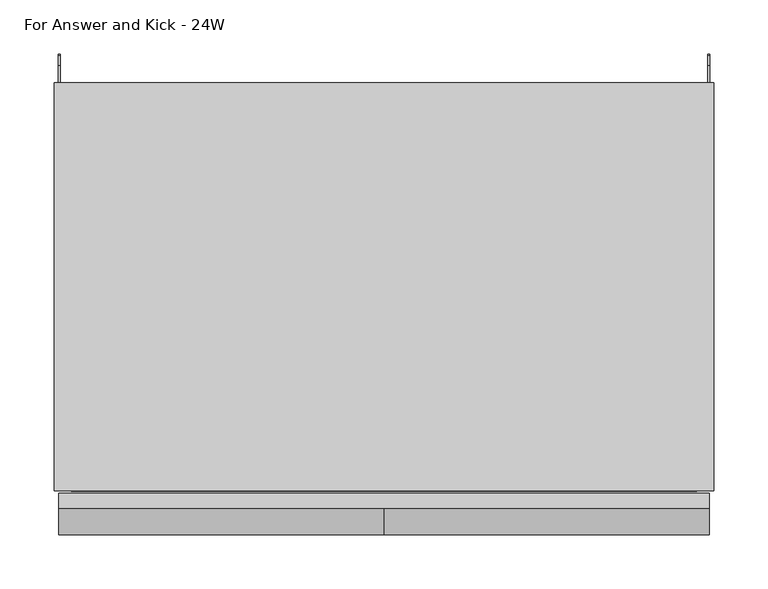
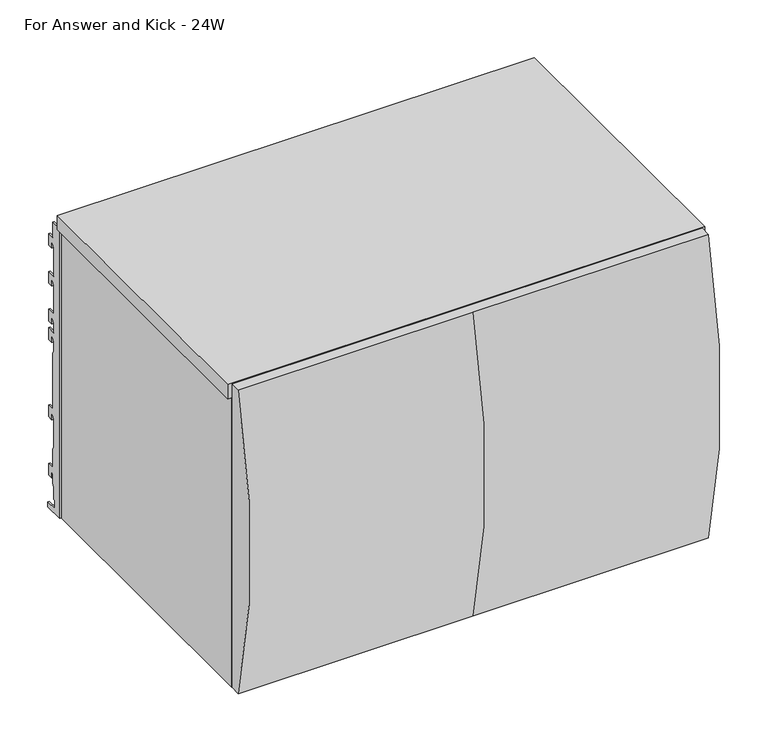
"""IFC4 building model written with IfcOpenShell, lengths in millimetres: furniture geometry, Steelcase - Universal Storage - Over the Case Bin - Radius Front : For Answer and Kick - 24W."""

from ifc_helpers import new_model, si_unit, frame, origin, place, context, project, spatial, polyline, circle_curve, outline, extrude, source, transform, mapped, element, save
from ifc_brep_helpers import plane_surface, cylinder_surface, advanced_brep


def for_answer_and_kick_24w_d9409938(model_context):
    return source(origin(), model_context, "Body", "SolidModel", [
        extrude(outline(polyline([(0.0, 1657.096), (15.428165, 1657.096), (15.428165, 1635.9725192), (24.6737648, 1635.9725192), (24.6737648, 1620.2499324), (17.7141651, 1620.2499324), (17.7141651, 1627.4034202), (15.428165, 1627.4034202), (13.3707653, 1623.8398995), (13.3707653, 1584.7332049), (24.4959651, 1584.7332049), (24.4959651, 1569.0106181), (17.7141651, 1569.0106181), (17.7141651, 1576.1734076), (15.428165, 1576.1734076), (13.3707653, 1572.6099624), (13.3707653, 1533.4938907), (24.6737648, 1533.4938907), (24.6737648, 1517.7713038), (17.5768, 1517.7713038), (17.5768, 1524.9340934), (15.4248855, 1524.9340934), (13.3349998, 1521.3219111), (13.3349998, 1508.4166423), (24.6737648, 1508.4166423), (24.6737648, 1492.6940555), (17.5768, 1492.6940555), (17.5768, 1499.856845), (15.4205129, 1499.856845), (13.3933344, 1496.3530466), (13.3933344, 1483.6530466), (15.428165, 1479.2893385), (15.428165, 1403.8551467), (24.6737648, 1403.8551467), (24.6737648, 1388.1325599), (17.7141651, 1388.1325599), (17.7141651, 1395.2982562), (15.428165, 1395.2982562), (13.3306079, 1391.6651808), (13.3306079, 1353.5651808), (15.428165, 1349.9321054), (15.428165, 1325.1000701), (24.6737648, 1325.1000701), (24.6737648, 1309.3774833), (17.7141651, 1309.3774833), (17.7141651, 1316.5328605), (15.428165, 1316.5328605), (15.428165, 1303.5355433), (13.2046809, 1299.684356), (13.2046809, 1282.9679719), (11.2879653, 1282.9679719), (11.2879653, 1271.9303504), (26.4009645, 1271.9303504), (26.4009645, 1265.428), (0.0, 1265.428), (0.0, 1657.096)])), frame((604.0882, 0.0, 0.0), z_axis=(1.0, 0.0, 0.0), x_axis=(0.0, 1.0, 0.0)), (0.0, 0.0, 1.0), 1.905),
        extrude(outline(polyline([(0.0, 1657.096), (15.428165, 1657.096), (15.428165, 1635.9725192), (24.6737648, 1635.9725192), (24.6737648, 1620.2499324), (17.7141651, 1620.2499324), (17.7141651, 1627.4034202), (15.428165, 1627.4034202), (13.3707653, 1623.8398995), (13.3707653, 1584.7332049), (24.4959651, 1584.7332049), (24.4959651, 1569.0106181), (17.7141651, 1569.0106181), (17.7141651, 1576.1734076), (15.428165, 1576.1734076), (13.3707653, 1572.6099624), (13.3707653, 1533.4938907), (24.6737648, 1533.4938907), (24.6737648, 1517.7713038), (17.5768, 1517.7713038), (17.5768, 1524.9340934), (15.4248855, 1524.9340934), (13.3349998, 1521.3219111), (13.3349998, 1508.4166423), (24.6737648, 1508.4166423), (24.6737648, 1492.6940555), (17.5768, 1492.6940555), (17.5768, 1499.856845), (15.4205129, 1499.856845), (13.3933344, 1496.3530466), (13.3933344, 1483.6530466), (15.428165, 1479.2893385), (15.428165, 1403.8551467), (24.6737648, 1403.8551467), (24.6737648, 1388.1325599), (17.7141651, 1388.1325599), (17.7141651, 1395.2982562), (15.428165, 1395.2982562), (13.3306079, 1391.6651808), (13.3306079, 1353.5651808), (15.428165, 1349.9321054), (15.428165, 1325.1000701), (24.6737648, 1325.1000701), (24.6737648, 1309.3774833), (17.7141651, 1309.3774833), (17.7141651, 1316.5328605), (15.428165, 1316.5328605), (15.428165, 1303.5355433), (13.2046809, 1299.684356), (13.2046809, 1282.9679719), (11.2879653, 1282.9679719), (11.2879653, 1271.9303504), (26.4009645, 1271.9303504), (26.4009645, 1265.428), (0.0, 1265.428), (0.0, 1657.096)])), frame((3.6068, 0.0, 0.0), z_axis=(1.0, 0.0, 0.0), x_axis=(0.0, 1.0, 0.0)), (0.0, 0.0, 1.0), 1.905),
        advanced_brep(
        [(605.1703, -393.0769518, 1677.2612846), (605.1703, -393.0769518, 1266.8226746), (605.1703, -379.476, 1266.8226746), (605.1703, -379.476, 1677.2612846), (304.8, -393.0769518, 1677.2612846), (304.8, -393.0769518, 1266.8226746), (4.4448587, -393.0769518, 1266.8226746), (4.4448587, -379.476, 1266.8226746), (4.4448587, -379.476, 1677.2612846), (4.4448587, -393.0769518, 1677.2612846)],
        [
            (0, 1, circle_curve(frame((605.1703, 352.6331971, 1472.0419796), z_axis=(1.0, 0.0, 0.0), x_axis=(0.0, 1.0, 0.0)), 773.4329895)),
            (1, 2),
            (2, 3),
            (3, 0),
            (0, 4),
            (4, 5, circle_curve(frame((304.8, 352.6331971, 1472.0419796), z_axis=(1.0, 0.0, 0.0), x_axis=(0.0, 1.0, 0.0)), 773.4329895)),
            (5, 1),
            (5, 6),
            (6, 7),
            (7, 2),
            (7, 8),
            (8, 3),
            (8, 9),
            (9, 4),
            (6, 9, circle_curve(frame((4.4448587, 352.6331971, 1472.0419796), z_axis=(-1.0, 0.0, 0.0), x_axis=(0.0, 1.0, 0.0)), 773.4329895)),
        ],
        [
            plane_surface(frame((605.1703, 1126.0661866, 1472.0419796), z_axis=(1.0, 0.0, 0.0), x_axis=(0.0, 0.0, 1.0))),
            cylinder_surface(frame((304.8, 352.6331971, 1472.0419796), z_axis=(1.0, 0.0, 0.0), x_axis=(0.0, 1.0, 0.0)), 773.4329895),
            plane_surface(frame((605.1703, -393.0769518, 1266.8226746), z_axis=(0.0, 0.0, -1.0), x_axis=(-1.0, 0.0, 0.0))),
            plane_surface(frame((605.1703, -379.476, 1266.8226746), z_axis=(0.0, 1.0, 0.0), x_axis=(-1.0, 0.0, 0.0))),
            plane_surface(frame((605.1703, -379.476, 1677.2612846), z_axis=(0.0, 0.0, 1.0), x_axis=(-1.0, 0.0, 0.0))),
            plane_surface(frame((4.4448587, 1126.0661866, 1472.0419796), z_axis=(-1.0, 0.0, 0.0), x_axis=(0.0, 0.0, -1.0))),
            cylinder_surface(frame((4.4448587, 352.6331971, 1472.0419796), z_axis=(1.0, 0.0, 0.0), x_axis=(0.0, 1.0, 0.0)), 773.4329895),
        ],
        [
            (0, [[1, 2, 3, 4]]),
            (1, [[-1, 5, 6, 7]]),
            (2, [[-2, -7, 8, 9, 10]]),
            (3, [[-3, -10, 11, 12]]),
            (4, [[-4, -12, 13, 14, -5]]),
            (5, [[-13, -11, -9, 15]]),
            (6, [[-15, -8, -6, -14]]),
        ],
    ),
        extrude(outline(polyline([(609.6, -377.213238), (0.0, -377.213238), (0.0, 0.0), (609.6, 0.0), (609.6, -377.213238)])), frame((0.0, 0.0, 1657.35), z_axis=(0.0, 0.0, 1.0), x_axis=(1.0, 0.0, 0.0)), (0.0, 0.0, 1.0), 19.05),
        extrude(outline(polyline([(15.875, -377.213238), (5.5118, -377.213238), (5.5118, 0.0), (15.875, 0.0), (15.875, -377.213238)])), frame((0.0, 0.0, 1265.428), z_axis=(0.0, 0.0, 1.0), x_axis=(1.0, 0.0, 0.0)), (0.0, 0.0, 1.0), 391.6679457),
        extrude(outline(polyline([(608.4568665, -377.213238), (593.725, -377.213238), (593.725, 0.0), (608.4568665, 0.0), (608.4568665, -377.213238)])), frame((0.0, 0.0, 1265.428), z_axis=(0.0, 0.0, 1.0), x_axis=(1.0, 0.0, 0.0)), (0.0, 0.0, 1.0), 391.6679457),
        extrude(outline(polyline([(-35.4584098, 1372.819257), (-27.0763996, 1372.819257), (-27.0763996, 1360.1191601), (-33.4264117, 1360.1191601), (-33.4264117, 1323.1622589), (-27.0763996, 1323.1622589), (-27.0763996, 1265.428), (-35.4584098, 1265.428), (-35.4584098, 1293.054213), (-46.1263996, 1293.054213), (-46.1263996, 1268.1875622), (-59.9694137, 1268.1875622), (-59.9694137, 1294.8575912), (-332.8542818, 1294.8575912), (-332.8542818, 1268.1875622), (-377.3042823, 1268.1875622), (-377.3042823, 1310.7072052), (-35.4584098, 1310.7072052), (-35.4584098, 1372.819257)])), frame((15.875, 0.0, 0.0), z_axis=(1.0, 0.0, 0.0), x_axis=(0.0, 1.0, 0.0)), (0.0, 0.0, 1.0), 577.85),
    ])


if __name__ == "__main__":
    model = new_model("IFC4")
    model_context = context("Model", 3, world=origin())
    ifc_project = project(units=[si_unit("LENGTHUNIT", "METRE", prefix="MILLI")], contexts=[model_context])
    site = spatial("IfcSite", under=ifc_project)
    building = spatial("IfcBuilding", under=site)
    placement = place(None, origin())
    for_answer_and_kick_24w_shape = for_answer_and_kick_24w_d9409938(model_context)
    element("IfcFurniture", 1, ObjectType="Steelcase - Universal Storage - Over the Case Bin - Radius Front : For Answer and Kick - 24W", at=placement, inside=building, context=model_context, shape_type="MappedRepresentation", body=[
        mapped(for_answer_and_kick_24w_shape, transform((0.0, 0.0, 0.0), x_axis=(1.0, 0.0, 0.0), y_axis=(0.0, 1.0, 0.0), z_axis=(0.0, 0.0, 1.0))),
    ])
    save(model, "model.ifc")
